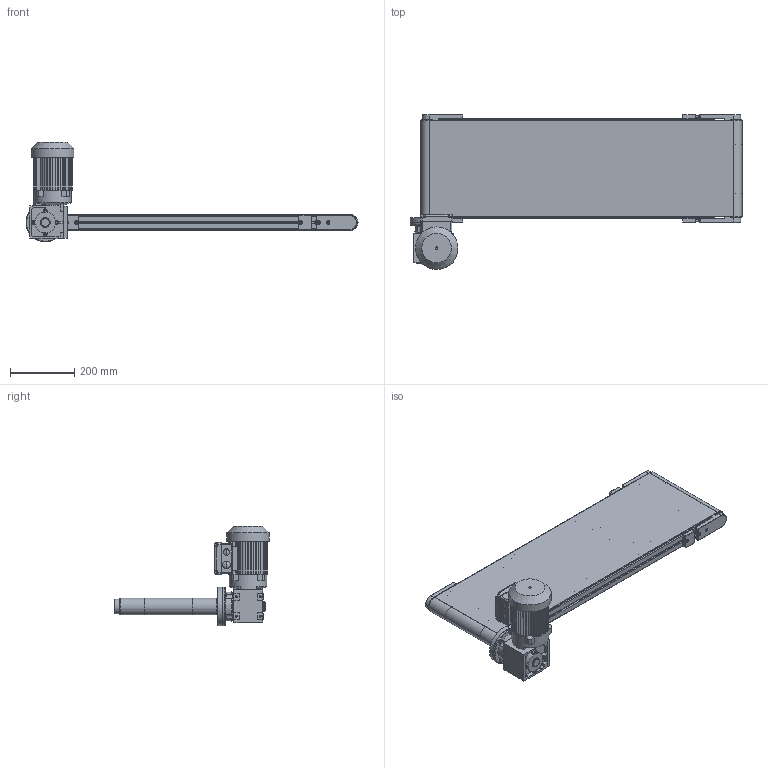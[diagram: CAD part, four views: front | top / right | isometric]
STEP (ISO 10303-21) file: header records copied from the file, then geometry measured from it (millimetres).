
FILE_DESCRIPTION (( 'STEP AP214' ), '1' );
FILE_NAME ('TB52 300X1000 DROIT A DROITE SEW.STEP', '2022-10-10T13:05:38', ( '' ), ( '' ), 'SwSTEP 2.0', 'SolidWorks 2022', '' );
FILE_SCHEMA (( 'AUTOMOTIVE_DESIGN' ));
Length unit declared in the file: millimetre
Products named in the file (28): NONE; CHASSIS TB52_Défaut<Brut d''usinage>; 982-001B_982-001B-300; 983-001; 983-000-SEW; WAF20DR63M4 M3A0°; TH_910-167; NONE_6; NONE_2; 982-008; 982-000; NONE_5; 983-002; NONE_8; NONE_3; NONE_5_3; NONE_5_2; CHC THE_910-065H; 982-002-SEW; NONE_7; 982-016-SEW; TB52 300X1000 DROIT A DROITE SEW; NONE_9; 910-010; 982-003; NONE_1; NONE_4; CLAVETTE_910-212-50
Assembly tree (43 placements, depth 4):
  TB52 300X1000 DROIT A DROITE SEW
    CHASSIS TB52_Défaut<Brut d''usinage>
    983-002  x2
      982-008
      TH_910-167
      CHC THE_910-065H
      910-010
    982-001B_982-001B-300  x2
    983-001  x3
      982-000
      982-003
      CHC THE_910-065H
      910-010
    983-000-SEW
      982-016-SEW
      982-002-SEW
      CHC THE_910-065H  x2
      910-010  x2
      CLAVETTE_910-212-50
      TH_910-167  x4
      WAF20DR63M4 M3A0°
        NONE_1
        NONE_2
        NONE_3
        NONE_4
        NONE_5
        NONE_5_2
        NONE_5_3
        NONE_6
        NONE_7
        NONE
        NONE_8
        NONE_9
Bounding box: 1034 x 482 x 310 mm (x, y, z)
Volume: 9796250.2 mm3; surface area: 3400533.8 mm2
Topology: 59 solids, 59 shells, 1793 faces, 4560 edges, 2988 vertices
Faces by surface type: plane 1082, cylinder 482, cone 176, torus 50, bspline 3
Full cylindrical faces by diameter (mm): 5 x17, 5.98 x10, 6 x25, 6.5 x10, 6.6 x12, 7.3 x6, 8 x7, 10 x10, 11 x10, 15 x6, 20 x2, 21 x6, 24 x4, 25 x1, 29 x6, 30 x6, 31 x3, 32 x1, 33 x1, 35 x9, 36 x1, 38 x1, 44 x1, 49 x2, 80 x2, 117 x1, 120 x1, 132 x1
Entity records: 47180 total; most frequent: CARTESIAN_POINT 7149, DIRECTION 6389, ORIENTED_EDGE 6282, EDGE_CURVE 3141, VECTOR 2265, LINE 2265, VERTEX_POINT 2150, AXIS2_PLACEMENT_3D 2062
